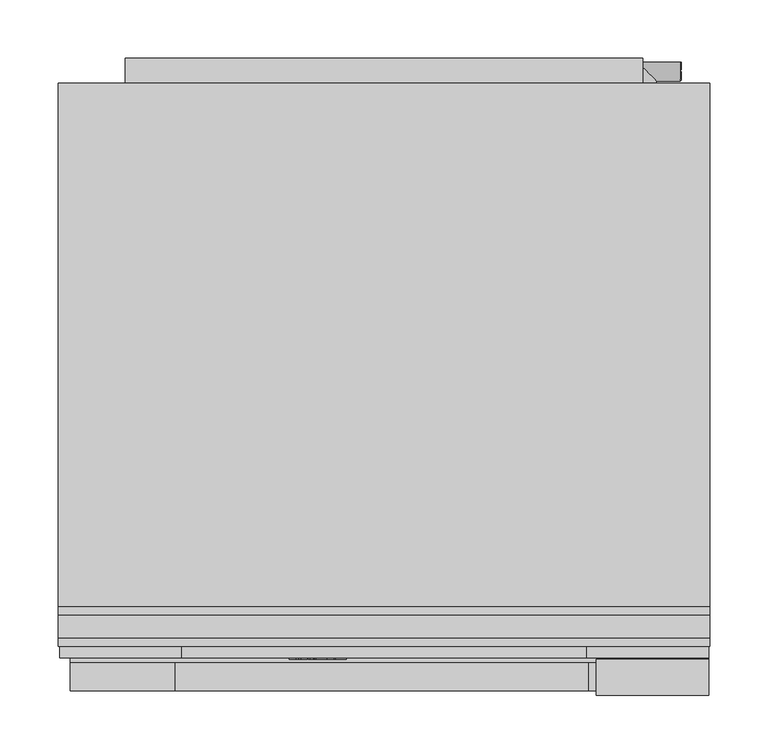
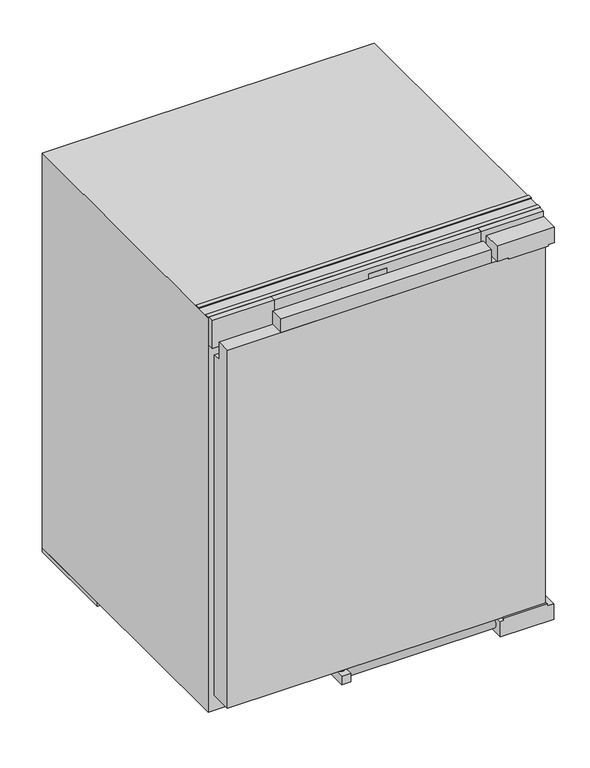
"""IFC4 building model written with IfcOpenShell, lengths in millimetres: proxy geometry, 12443420_EU1_FNS7040B : 37704006_EU1_12443420_FNS7040B."""

from ifc_helpers import new_model, si_unit, point, frame, frame_2d, origin, origin_with_axes, place, context, project, spatial, polyline, circle_curve, ellipse_curve, trimmed, segment, composite_curve, outline, extrude, faceted_brep, source, transform, mapped, element, save
from ifc_brep_helpers import plane_surface, cylinder_surface, revolved_surface, extruded_surface, advanced_brep


def specialty_equipment_b1f32cfa(model_context):
    return source(origin(), model_context, "Body", "SolidModel", [
        advanced_brep(
        [(-37.4941578, 34.0, 686.908), (-37.4941578, 34.0, 687.716), (-32.1421578, 34.0, 687.716), (-41.4541578, 34.0, 687.716), (-39.2541578, 34.0, 685.012), (-32.2781578, 34.0, 686.908), (-34.6941578, 34.0, 686.908), (-36.5981578, 34.0, 686.012), (-37.4941578, 34.0, 688.74), (-37.4941578, 34.0, 689.612), (-36.1261578, 34.0, 689.612), (-36.1261578, 34.0, 688.74), (-37.4941578, 35.0, 686.908), (-36.5981578, 35.0, 686.012), (-34.6941578, 35.0, 686.908), (-32.2781578, 35.0, 686.908), (-39.2541578, 35.0, 685.012), (-41.4541578, 35.0, 687.716), (-32.1421578, 35.0, 687.716), (-37.4941578, 35.0, 687.716), (-37.4941578, 35.0, 688.74), (-36.1261578, 35.0, 688.74), (-36.1261578, 35.0, 689.612), (-37.4941578, 35.0, 689.612)],
        [
            (0, 1),
            (1, 2),
            (2, 3, ellipse_curve(frame((-36.7981578, 34.0, 687.716), z_axis=(0.0, -1.0, 0.0), x_axis=(-1.0, 0.0, 0.0)), 4.656, 3.848)),
            (3, 4, circle_curve(frame((-38.3581141, 34.0, 687.988), z_axis=(0.0, -1.0, 0.0), x_axis=(0.0, 0.0, -1.0)), 3.1079688)),
            (4, 5, circle_curve(frame((-36.8913642, 34.0, 690.1), z_axis=(0.0, -1.0, 0.0), x_axis=(0.0, 0.0, -1.0)), 5.6098607)),
            (5, 6),
            (6, 7, circle_curve(frame((-36.207099, 34.0, 687.652), z_axis=(0.0, 1.0, 0.0), x_axis=(0.0, 0.0, -1.0)), 1.6859795)),
            (7, 0, circle_curve(frame((-36.5981578, 34.0, 686.908), z_axis=(0.0, 1.0, 0.0), x_axis=(0.0, 0.0, -1.0)), 0.896)),
            (8, 9),
            (9, 10, circle_curve(frame((-36.8101578, 34.0, 689.612), z_axis=(0.0, 1.0, 0.0), x_axis=(0.0, 0.0, -1.0)), 0.684)),
            (10, 11),
            (11, 8),
            (12, 13, circle_curve(frame((-36.5981578, 35.0, 686.908), z_axis=(0.0, -1.0, 0.0), x_axis=(0.0, 0.0, -1.0)), 0.896)),
            (13, 14, circle_curve(frame((-36.207099, 35.0, 687.652), z_axis=(0.0, -1.0, 0.0), x_axis=(0.0, 0.0, -1.0)), 1.6859795)),
            (14, 15),
            (15, 16, circle_curve(frame((-36.8913642, 35.0, 690.1), z_axis=(0.0, 1.0, 0.0), x_axis=(0.0, 0.0, -1.0)), 5.6098607)),
            (16, 17, circle_curve(frame((-38.3581141, 35.0, 687.988), z_axis=(0.0, 1.0, 0.0), x_axis=(0.0, 0.0, -1.0)), 3.1079688)),
            (17, 18, ellipse_curve(frame((-36.7981578, 35.0, 687.716), z_axis=(0.0, 1.0, 0.0), x_axis=(-1.0, 0.0, 0.0)), 4.656, 3.848)),
            (18, 19),
            (19, 12),
            (20, 21),
            (21, 22),
            (22, 23, circle_curve(frame((-36.8101578, 35.0, 689.612), z_axis=(0.0, -1.0, 0.0), x_axis=(0.0, 0.0, -1.0)), 0.684)),
            (23, 20),
            (0, 12),
            (19, 1),
            (18, 2),
            (5, 15),
            (14, 6),
            (17, 3),
            (13, 7),
            (16, 4),
            (8, 20),
            (23, 9),
            (22, 10),
            (21, 11),
        ],
        [
            plane_surface(frame((-37.4941578, 34.0, 687.716), z_axis=(0.0, -1.0, 0.0), x_axis=(0.0, 0.0, 1.0))),
            plane_surface(frame((-37.4941578, 35.0, 687.716), z_axis=(0.0, 1.0, 0.0), x_axis=(0.0, 0.0, -1.0))),
            plane_surface(frame((-37.4941578, 34.0, 686.908), z_axis=(1.0, 0.0, 0.0), x_axis=(0.0, 1.0, 0.0))),
            plane_surface(frame((-37.4941578, 34.0, 687.716), z_axis=(0.0, 0.0, -1.0), x_axis=(0.0, 1.0, 0.0))),
            plane_surface(frame((-32.2781578, 34.0, 686.908), z_axis=(0.0, 0.0, 1.0), x_axis=(0.0, 1.0, 0.0))),
            extruded_surface(trimmed(ellipse_curve(frame((-36.7981578, 36.0, 687.716), z_axis=(0.0, -1.0, 0.0), x_axis=(-1.0, 0.0, 0.0)), 4.656, 3.848), [point((-32.1421578, 36.0, 687.716))], [point((-41.4541578, 36.0, 687.716))], True, "CARTESIAN"), (0.0, -1.0, 0.0), 1.0),
            revolved_surface(polyline([(-36.207099, 35.0, 685.9660205), (-36.207099, 34.0, 685.9660205)]), (-36.207099, 35.0, 687.652), (0.0, 1.0, 0.0)),
            revolved_surface(polyline([(-36.5981578, 35.0, 686.0120000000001), (-36.5981578, 34.0, 686.0120000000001)]), (-36.5981578, 35.0, 686.908), (0.0, 1.0, 0.0)),
            cylinder_surface(frame((-38.3581141, 35.0, 687.988), z_axis=(0.0, -1.0, 0.0), x_axis=(0.0, 0.0, -1.0)), 3.1079688),
            cylinder_surface(frame((-36.8913642, 35.0, 690.1), z_axis=(0.0, -1.0, 0.0), x_axis=(0.0, 0.0, -1.0)), 5.6098607),
            plane_surface(frame((-37.4941578, 34.0, 688.74), z_axis=(1.0, 0.0, 0.0), x_axis=(0.0, 1.0, 0.0))),
            revolved_surface(polyline([(-36.8101578, 35.0, 688.928), (-36.8101578, 34.0, 688.928)]), (-36.8101578, 35.0, 689.612), (0.0, 1.0, 0.0)),
            plane_surface(frame((-36.1261578, 34.0, 689.612), z_axis=(-1.0, 0.0, 0.0), x_axis=(0.0, 1.0, 0.0))),
            plane_surface(frame((-36.1261578, 34.0, 688.74), z_axis=(0.0, 0.0, 1.0), x_axis=(0.0, 1.0, 0.0))),
        ],
        [
            (0, [[1, 2, 3, 4, 5, 6, 7, 8], [9, 10, 11, 12]]),
            (1, [[13, 14, 15, 16, 17, 18, 19, 20], [21, 22, 23, 24]]),
            (2, [[-1, 25, -20, 26]]),
            (3, [[-2, -26, -19, 27]]),
            (4, [[-6, 28, -15, 29]]),
            (5, [[-3, -27, -18, 30]]),
            (6, [[-7, -29, -14, 31]]),
            (7, [[-8, -31, -13, -25]]),
            (8, [[-4, -30, -17, 32]]),
            (9, [[-5, -32, -16, -28]]),
            (10, [[-9, 33, -24, 34]]),
            (11, [[-10, -34, -23, 35]]),
            (12, [[-11, -35, -22, 36]]),
            (13, [[-12, -36, -21, -33]]),
        ],
    ),
        advanced_brep(
        [(-54.1901578, 34.0, 686.908), (-54.1901578, 34.0, 687.716), (-48.8381578, 34.0, 687.716), (-58.1501578, 34.0, 687.716), (-55.9501578, 34.0, 685.012), (-48.9741578, 34.0, 686.908), (-51.3901578, 34.0, 686.908), (-53.2941578, 34.0, 686.012), (-54.1901578, 34.0, 688.74), (-54.1901578, 34.0, 689.612), (-52.8221578, 34.0, 689.612), (-52.8221578, 34.0, 688.74), (-54.1901578, 35.0, 686.908), (-53.2941578, 35.0, 686.012), (-51.3901578, 35.0, 686.908), (-48.9741578, 35.0, 686.908), (-55.9501578, 35.0, 685.012), (-58.1501578, 35.0, 687.716), (-48.8381578, 35.0, 687.716), (-54.1901578, 35.0, 687.716), (-54.1901578, 35.0, 688.74), (-52.8221578, 35.0, 688.74), (-52.8221578, 35.0, 689.612), (-54.1901578, 35.0, 689.612)],
        [
            (0, 1),
            (1, 2),
            (2, 3, ellipse_curve(frame((-53.4941578, 34.0, 687.716), z_axis=(0.0, -1.0, 0.0), x_axis=(-1.0, 0.0, 0.0)), 4.656, 3.848)),
            (3, 4, circle_curve(frame((-55.0541141, 34.0, 687.988), z_axis=(0.0, -1.0, 0.0), x_axis=(0.0, 0.0, -1.0)), 3.1079688)),
            (4, 5, circle_curve(frame((-53.5873642, 34.0, 690.1), z_axis=(0.0, -1.0, 0.0), x_axis=(0.0, 0.0, -1.0)), 5.6098607)),
            (5, 6),
            (6, 7, circle_curve(frame((-52.903099, 34.0, 687.652), z_axis=(0.0, 1.0, 0.0), x_axis=(0.0, 0.0, -1.0)), 1.6859795)),
            (7, 0, circle_curve(frame((-53.2941578, 34.0, 686.908), z_axis=(0.0, 1.0, 0.0), x_axis=(0.0, 0.0, -1.0)), 0.896)),
            (8, 9),
            (9, 10, circle_curve(frame((-53.5061578, 34.0, 689.612), z_axis=(0.0, 1.0, 0.0), x_axis=(0.0, 0.0, -1.0)), 0.684)),
            (10, 11),
            (11, 8),
            (12, 13, circle_curve(frame((-53.2941578, 35.0, 686.908), z_axis=(0.0, -1.0, 0.0), x_axis=(0.0, 0.0, -1.0)), 0.896)),
            (13, 14, circle_curve(frame((-52.903099, 35.0, 687.652), z_axis=(0.0, -1.0, 0.0), x_axis=(0.0, 0.0, -1.0)), 1.6859795)),
            (14, 15),
            (15, 16, circle_curve(frame((-53.5873642, 35.0, 690.1), z_axis=(0.0, 1.0, 0.0), x_axis=(0.0, 0.0, -1.0)), 5.6098607)),
            (16, 17, circle_curve(frame((-55.0541141, 35.0, 687.988), z_axis=(0.0, 1.0, 0.0), x_axis=(0.0, 0.0, -1.0)), 3.1079688)),
            (17, 18, ellipse_curve(frame((-53.4941578, 35.0, 687.716), z_axis=(0.0, 1.0, 0.0), x_axis=(-1.0, 0.0, 0.0)), 4.656, 3.848)),
            (18, 19),
            (19, 12),
            (20, 21),
            (21, 22),
            (22, 23, circle_curve(frame((-53.5061578, 35.0, 689.612), z_axis=(0.0, -1.0, 0.0), x_axis=(0.0, 0.0, -1.0)), 0.684)),
            (23, 20),
            (0, 12),
            (19, 1),
            (18, 2),
            (5, 15),
            (14, 6),
            (17, 3),
            (13, 7),
            (16, 4),
            (8, 20),
            (23, 9),
            (22, 10),
            (21, 11),
        ],
        [
            plane_surface(frame((-54.1901578, 34.0, 687.716), z_axis=(0.0, -1.0, 0.0), x_axis=(0.0, 0.0, 1.0))),
            plane_surface(frame((-54.1901578, 35.0, 687.716), z_axis=(0.0, 1.0, 0.0), x_axis=(0.0, 0.0, -1.0))),
            plane_surface(frame((-54.1901578, 34.0, 686.908), z_axis=(1.0, 0.0, 0.0), x_axis=(0.0, 1.0, 0.0))),
            plane_surface(frame((-54.1901578, 34.0, 687.716), z_axis=(0.0, 0.0, -1.0), x_axis=(0.0, 1.0, 0.0))),
            plane_surface(frame((-48.9741578, 34.0, 686.908), z_axis=(0.0, 0.0, 1.0), x_axis=(0.0, 1.0, 0.0))),
            extruded_surface(trimmed(ellipse_curve(frame((-53.4941578, 36.0, 687.716), z_axis=(0.0, -1.0, 0.0), x_axis=(-1.0, 0.0, 0.0)), 4.656, 3.848), [point((-48.8381578, 36.0, 687.716))], [point((-58.1501578, 36.0, 687.716))], True, "CARTESIAN"), (0.0, -1.0, 0.0), 1.0),
            revolved_surface(polyline([(-52.903099, 35.0, 685.9660205), (-52.903099, 34.0, 685.9660205)]), (-52.903099, 35.0, 687.652), (0.0, 1.0, 0.0)),
            revolved_surface(polyline([(-53.2941578, 35.0, 686.0120000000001), (-53.2941578, 34.0, 686.0120000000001)]), (-53.2941578, 35.0, 686.908), (0.0, 1.0, 0.0)),
            cylinder_surface(frame((-55.0541141, 35.0, 687.988), z_axis=(0.0, -1.0, 0.0), x_axis=(0.0, 0.0, -1.0)), 3.1079688),
            cylinder_surface(frame((-53.5873642, 35.0, 690.1), z_axis=(0.0, -1.0, 0.0), x_axis=(0.0, 0.0, -1.0)), 5.6098607),
            plane_surface(frame((-54.1901578, 34.0, 688.74), z_axis=(1.0, 0.0, 0.0), x_axis=(0.0, 1.0, 0.0))),
            revolved_surface(polyline([(-53.5061578, 35.0, 688.928), (-53.5061578, 34.0, 688.928)]), (-53.5061578, 35.0, 689.612), (0.0, 1.0, 0.0)),
            plane_surface(frame((-52.8221578, 34.0, 689.612), z_axis=(-1.0, 0.0, 0.0), x_axis=(0.0, 1.0, 0.0))),
            plane_surface(frame((-52.8221578, 34.0, 688.74), z_axis=(0.0, 0.0, 1.0), x_axis=(0.0, 1.0, 0.0))),
        ],
        [
            (0, [[1, 2, 3, 4, 5, 6, 7, 8], [9, 10, 11, 12]]),
            (1, [[13, 14, 15, 16, 17, 18, 19, 20], [21, 22, 23, 24]]),
            (2, [[-1, 25, -20, 26]]),
            (3, [[-2, -26, -19, 27]]),
            (4, [[-6, 28, -15, 29]]),
            (5, [[-3, -27, -18, 30]]),
            (6, [[-7, -29, -14, 31]]),
            (7, [[-8, -31, -13, -25]]),
            (8, [[-4, -30, -17, 32]]),
            (9, [[-5, -32, -16, -28]]),
            (10, [[-9, 33, -24, 34]]),
            (11, [[-10, -34, -23, 35]]),
            (12, [[-11, -35, -22, 36]]),
            (13, [[-12, -36, -21, -33]]),
        ],
    ),
        extrude(outline(polyline([(692.54, -62.9341578), (691.244, -62.3261578), (692.508, -59.6141578), (693.804, -60.2141578), (692.54, -62.9341578)])), frame((0.0, 34.0, 0.0), z_axis=(0.0, 1.0, 0.0), x_axis=(0.0, 0.0, 1.0)), (0.0, 0.0, 1.0), 1.0),
        extrude(outline(polyline([(691.068, -64.9101578), (689.636, -64.9101578), (689.636, -63.9581578), (686.356, -63.9581578), (686.356, -64.9101578), (685.012, -64.9101578), (685.012, -58.5981578), (686.356, -58.5981578), (686.356, -59.5261578), (691.068, -59.5261578), (691.068, -64.9101578)])), frame((0.0, 34.0, 0.0), z_axis=(0.0, 1.0, 0.0), x_axis=(0.0, 0.0, 1.0)), (0.0, 0.0, 1.0), 1.0),
        extrude(outline(polyline([(691.708, -48.3901578), (691.708, -47.4301578), (686.356, -47.4301578), (686.356, -48.3901578), (685.012, -48.3901578), (685.012, -41.9021578), (686.356, -41.9021578), (686.356, -42.8861578), (693.012, -42.8861578), (693.012, -48.3901578), (691.708, -48.3901578)])), frame((0.0, 34.0, 0.0), z_axis=(0.0, 1.0, 0.0), x_axis=(0.0, 0.0, 1.0)), (0.0, 0.0, 1.0), 1.0),
        extrude(outline(polyline([(691.708, -80.8541578), (691.708, -79.8861578), (686.356, -79.8861578), (686.356, -80.8541578), (685.012, -80.8541578), (685.012, -77.3341578), (686.356, -77.3341578), (686.356, -78.2941578), (689.7591247, -78.2941578), (685.012, -74.7181578), (689.8272223, -71.1261578), (686.356, -71.1261578), (686.356, -72.1101578), (685.012, -72.1101578), (685.012, -65.7261578), (686.356, -65.7261578), (686.356, -66.7421578), (691.708, -66.7421578), (691.708, -65.7261578), (693.012, -65.7261578), (693.012, -70.5981578), (690.012, -72.9341578), (693.012, -75.2781578), (693.012, -80.8541578), (691.708, -80.8541578)])), frame((0.0, 34.0, 0.0), z_axis=(0.0, 1.0, 0.0), x_axis=(0.0, 0.0, 1.0)), (0.0, 0.0, 1.0), 1.0),
        extrude(outline(polyline([(-14.8541578, 36.0), (15.1458422, 36.0), (15.1458422, 35.0), (-14.8541578, 35.0), (-14.8541578, 36.0)])), frame((0.0, 0.0, 672.0), z_axis=(0.0, 0.0, 1.0), x_axis=(1.0, 0.0, 0.0)), (0.0, 0.0, 1.0), 30.0),
        extrude(outline(polyline([(-277.3541578, 45.0), (-173.3541578, 45.0), (-173.3541578, 35.0), (-277.3541578, 35.0), (-277.3541578, 45.0)])), frame((0.0, 0.0, 662.0), z_axis=(0.0, 0.0, 1.0), x_axis=(1.0, 0.0, 0.0)), (0.0, 0.0, 1.0), 49.0),
        extrude(outline(polyline([(173.6458422, 45.0), (277.6458422, 45.0), (277.6458422, 35.0), (173.6458422, 35.0), (173.6458422, 45.0)])), frame((0.0, 0.0, 662.0), z_axis=(0.0, 0.0, 1.0), x_axis=(1.0, 0.0, 0.0)), (0.0, 0.0, 1.0), 49.0),
        faceted_brep([(173.6458422, 35.0, 711.0), (-173.3541578, 35.0, 711.0), (-173.3541578, 35.0, 662.0), (173.6458422, 35.0, 662.0), (15.1458422, 35.0, 702.0), (15.1458422, 35.0, 672.0), (-14.8541578, 35.0, 672.0), (-14.8541578, 35.0, 702.0), (173.6458422, 45.0, 711.0), (173.6458422, 45.0, 662.0), (-173.3541578, 45.0, 662.0), (-173.3541578, 45.0, 711.0), (15.1458422, 36.0, 702.0), (-14.8541578, 36.0, 702.0), (-14.8541578, 36.0, 672.0), (15.1458422, 36.0, 672.0)], [[[0, 1, 2, 3], [4, 5, 6, 7]], [[8, 9, 10, 11]], [[0, 3, 9, 8]], [[3, 2, 10, 9]], [[2, 1, 11, 10]], [[1, 0, 8, 11]], [[12, 13, 14, 15]], [[12, 15, 5, 4]], [[15, 14, 6, 5]], [[14, 13, 7, 6]], [[13, 12, 4, 7]]]),
        extrude(outline(polyline([(672.0, 201.6194317), (672.0, 267.6194317), (675.0, 267.6194317), (675.0, 277.6194317), (702.0, 277.6194317), (702.0, 181.6194317), (675.0, 181.6194317), (675.0, 201.6194317), (672.0, 201.6194317)])), frame((0.0, 3.0, 0.0), z_axis=(0.0, 1.0, 0.0), x_axis=(0.0, 0.0, 1.0)), (0.0, 0.0, 1.0), 31.0),
        extrude(outline(polyline([(33.0, 187.6194317), (6.0, 187.6194317), (6.0, 277.6194317), (33.0, 277.6194317), (33.0, 266.6194317), (37.0, 266.6194317), (37.0, 193.6194317), (33.0, 193.6194317), (33.0, 187.6194317)])), frame((0.0, 4.0, 0.0), z_axis=(0.0, 1.0, 0.0), x_axis=(0.0, 0.0, 1.0)), (0.0, 0.0, 1.0), 41.0),
        extrude(outline(polyline([(7.0, 37.0), (7.0, 672.0), (31.0, 672.0), (31.0, 641.0), (45.0, 641.0), (45.0, 37.0), (7.0, 37.0)])), frame((-268.3805683, 0.0, 0.0), z_axis=(1.0, 0.0, 0.0), x_axis=(0.0, 1.0, 0.0)), (0.0, 0.0, 1.0), 533.0),
        extrude(outline(polyline([(174.6194317, 7.0), (-178.3805683, 7.0), (-178.3805683, 31.0), (174.6194317, 31.0), (174.6194317, 7.0)])), frame((0.0, 0.0, 672.0), z_axis=(0.0, 0.0, 1.0), x_axis=(1.0, 0.0, 0.0)), (0.0, 0.0, 1.0), 24.0),
        extrude(outline(composite_curve([segment(trimmed(circle_curve(frame_2d((-67.3805683, 25.0)), 6.5), [point((-73.8805683, 25.0))], [point((-60.8805683, 25.0))], False, "CARTESIAN"), True, "CONTINUOUS"), segment(trimmed(circle_curve(frame_2d((-67.3805683, 25.0)), 6.5), [point((-60.8805683, 25.0))], [point((-73.8805683, 25.0))], False, "CARTESIAN"), True, "CONTINUOUS")], self_intersect=False)), frame((0.0, 0.0, 26.0), z_axis=(0.0, 0.0, 1.0), x_axis=(1.0, 0.0, 0.0)), (0.0, 0.0, 1.0), 11.0),
        extrude(outline(composite_curve([segment(trimmed(circle_curve(frame_2d((25.0, 20.0)), 9.0), [point((25.0, 11.0))], [point((25.0, 29.0))], False, "CARTESIAN"), True, "CONTINUOUS"), segment(trimmed(circle_curve(frame_2d((25.0, 20.0)), 9.0), [point((25.0, 29.0))], [point((25.0, 11.0))], False, "CARTESIAN"), True, "CONTINUOUS")], self_intersect=False)), frame((-60.8805683, 0.0, 0.0), z_axis=(1.0, 0.0, 0.0), x_axis=(0.0, 1.0, 0.0)), (0.0, 0.0, 1.0), 248.5),
        extrude(outline(polyline([(-75.8805683, 8.0), (-75.8805683, 42.0), (-60.8805683, 42.0), (-60.8805683, 8.0), (-75.8805683, 8.0)])), frame((0.0, 0.0, 11.0), z_axis=(0.0, 0.0, 1.0), x_axis=(1.0, 0.0, 0.0)), (0.0, 0.0, 1.0), 15.0),
        faceted_brep([(278.5, 527.0, 710.2), (-278.5, 527.0, 710.2), (-278.5, 45.0, 710.2), (278.5, 45.0, 710.2), (278.5, 527.0, 10.2), (278.5, 45.0, 10.2), (-278.5, 45.0, 10.2), (-278.5, 527.0, 10.2), (-208.5, 45.0, 632.2), (208.5, 45.0, 632.2), (208.5, 45.0, 76.2), (-208.5, 45.0, 76.2), (208.5, 487.0, 632.2), (-208.5, 487.0, 632.2), (-208.5, 487.0, 76.2), (208.5, 487.0, 76.2)], [[[0, 1, 2, 3]], [[4, 5, 6, 7]], [[1, 0, 4, 7]], [[2, 1, 7, 6]], [[3, 2, 6, 5], [8, 9, 10, 11]], [[0, 3, 5, 4]], [[12, 13, 14, 15]], [[13, 12, 9, 8]], [[14, 13, 8, 11]], [[15, 14, 11, 10]], [[12, 15, 10, 9]]]),
        extrude(outline(polyline([(208.5, 487.0), (208.5, 415.0), (-208.5, 415.0), (-208.5, 487.0), (208.5, 487.0)])), frame((0.0, 0.0, 76.2), z_axis=(0.0, 0.0, 1.0), x_axis=(1.0, 0.0, 0.0)), (0.0, 0.0, 1.0), 217.0),
        extrude(outline(polyline([(278.5, 367.0), (-278.5, 367.0), (-278.5, 527.0), (278.5, 527.0), (278.5, 367.0)])), frame((0.0, 0.0, 3.2), z_axis=(0.0, 0.0, 1.0), x_axis=(1.0, 0.0, 0.0)), (0.0, 0.0, 1.0), 7.0),
        extrude(outline(polyline([(-175.9047649, 94.122951), (-194.8377867, 364.8777771), (-169.8986855, 366.6216889), (-150.9656637, 95.8668628), (-175.9047649, 94.122951)])), frame((0.0, 0.0, 3.2), z_axis=(0.0, 0.0, 1.0), x_axis=(1.0, 0.0, 0.0)), (0.0, 0.0, 1.0), 7.0),
        extrude(outline(polyline([(175.9047649, 94.122951), (150.9656637, 95.8668628), (169.8791008, 366.3416154), (194.8182021, 364.5977035), (175.9047649, 94.122951)])), frame((0.0, 0.0, 3.2), z_axis=(0.0, 0.0, 1.0), x_axis=(1.0, 0.0, 0.0)), (0.0, 0.0, 1.0), 7.0),
        extrude(outline(composite_curve([segment(trimmed(circle_curve(frame_2d((-226.5, 64.6852762)), 11.0852762), [point((-237.5852762, 64.6852762))], [point((-215.4147238, 64.6852762))], False, "CARTESIAN"), True, "CONTINUOUS"), segment(trimmed(circle_curve(frame_2d((-226.5, 64.6852762)), 11.0852762), [point((-215.4147238, 64.6852762))], [point((-237.5852762, 64.6852762))], False, "CARTESIAN"), True, "CONTINUOUS")], self_intersect=False)), origin_with_axes(), (0.0, 0.0, 1.0), 10.2),
        extrude(outline(composite_curve([segment(trimmed(circle_curve(frame_2d((226.5, 64.6852762)), 11.0852762), [point((215.4147238, 64.6852762))], [point((237.5852762, 64.6852762))], False, "CARTESIAN"), True, "CONTINUOUS"), segment(trimmed(circle_curve(frame_2d((226.5, 64.6852762)), 11.0852762), [point((237.5852762, 64.6852762))], [point((215.4147238, 64.6852762))], False, "CARTESIAN"), True, "CONTINUOUS")], self_intersect=False)), origin_with_axes(), (0.0, 0.0, 1.0), 10.2),
        advanced_brep(
        [(232.9638051, 527.0, 142.0394627), (217.0361949, 527.0, 142.0394627), (232.9638051, 529.0361949, 142.0394627), (217.0361949, 544.9638051, 142.0394627), (253.2418947, 529.0361949, 142.0394627), (253.2418947, 544.9638051, 142.0394627)],
        [
            (0, 1, circle_curve(frame((225.0, 527.0, 142.0394627), z_axis=(0.0, -1.0, 0.0), x_axis=(-1.0, 0.0, 0.0)), 7.9638051)),
            (1, 0, circle_curve(frame((225.0, 527.0, 142.0394627), z_axis=(0.0, -1.0, 0.0), x_axis=(-1.0, 0.0, 0.0)), 7.9638051)),
            (0, 2),
            (2, 3, ellipse_curve(frame((225.0, 537.0, 142.0394627), z_axis=(-0.70710678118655, -0.707106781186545, 0.0), x_axis=(0.707106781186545, -0.7071067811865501, 0.0)), 11.2625212, 7.9638051)),
            (3, 1),
            (3, 2, ellipse_curve(frame((225.0, 537.0, 142.0394627), z_axis=(-0.70710678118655, -0.707106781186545, 0.0), x_axis=(0.707106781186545, -0.7071067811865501, 0.0)), 11.2625212, 7.9638051)),
            (4, 5, circle_curve(frame((253.2418947, 537.0, 142.0394627), z_axis=(1.0, 0.0, 0.0), x_axis=(0.0, 1.0, 0.0)), 7.9638051)),
            (5, 4, circle_curve(frame((253.2418947, 537.0, 142.0394627), z_axis=(1.0, 0.0, 0.0), x_axis=(0.0, 1.0, 0.0)), 7.9638051)),
            (2, 4),
            (5, 3),
        ],
        [
            plane_surface(frame((225.0, 527.0, 3.2), z_axis=(0.0, -1.0, 0.0), x_axis=(0.0, 0.0, 1.0))),
            cylinder_surface(frame((225.0, 527.0, 142.0394627), z_axis=(0.0, -1.0, 0.0), x_axis=(-1.0, 0.0, 0.0)), 7.9638051),
            plane_surface(frame((253.2418947, 537.0, 3.2), z_axis=(1.0, 0.0, 0.0), x_axis=(0.0, 0.0, 1.0))),
            cylinder_surface(frame((225.0, 537.0, 142.0394627), z_axis=(-1.0, 0.0, 0.0), x_axis=(0.0, 1.0, 0.0)), 7.9638051),
        ],
        [
            (0, [[1, 2]]),
            (1, [[-1, 3, 4, 5]]),
            (1, [[-2, -5, 6, -3]]),
            (2, [[7, 8]]),
            (3, [[-4, 9, -8, 10]]),
            (3, [[-6, -10, -7, -9]]),
        ],
    ),
        extrude(outline(polyline([(529.6227397, 137.0394627), (529.6227397, 147.0850937), (536.843037, 147.0850937), (536.843037, 145.8293899), (530.8784436, 145.8293899), (530.8784436, 142.8470932), (536.529111, 142.8470932), (536.529111, 141.5913893), (530.8784436, 141.5913893), (530.8784436, 138.2951666), (537.0, 138.2951666), (537.0, 137.0394627), (529.6227397, 137.0394627)])), frame((253.2418947, 0.0, 0.0), z_axis=(1.0, 0.0, 0.0), x_axis=(0.0, 1.0, 0.0)), (0.0, 0.0, 1.0), 1.0),
        extrude(outline(polyline([(538.8835558, 137.0394627), (538.8835558, 147.0850937), (540.1392597, 147.0850937), (540.1392597, 138.2951666), (545.1620752, 138.2951666), (545.1620752, 137.0394627), (538.8835558, 137.0394627)])), frame((253.2418947, 0.0, 0.0), z_axis=(1.0, 0.0, 0.0), x_axis=(0.0, 1.0, 0.0)), (0.0, 0.0, 1.0), 1.0),
        extrude(outline(polyline([(278.5, 79.0), (278.5, 72.0), (-278.5, 72.0), (-278.5, 79.0), (278.5, 79.0)])), frame((0.0, 0.0, 710.2), z_axis=(0.0, 0.0, 1.0), x_axis=(1.0, 0.0, 0.0)), (0.0, 0.0, 1.0), 2.0),
        extrude(outline(polyline([(278.5, 52.0), (278.5, 45.0), (-278.5, 45.0), (-278.5, 52.0), (278.5, 52.0)])), frame((0.0, 0.0, 710.2), z_axis=(0.0, 0.0, 1.0), x_axis=(1.0, 0.0, 0.0)), (0.0, 0.0, 1.0), 2.0),
        extrude(outline(polyline([(654.2, 221.5), (654.2, -221.5), (24.2, -221.5), (24.2, 221.5), (132.2534782, 221.5), (132.2534782, 212.5555072), (152.8704825, 212.5555072), (152.8704825, 221.5), (654.2, 221.5)])), frame((0.0, 527.0, 0.0), z_axis=(0.0, 1.0, 0.0), x_axis=(0.0, 0.0, 1.0)), (0.0, 0.0, 1.0), 21.28),
    ])


if __name__ == "__main__":
    model = new_model("IFC4")
    model_context = context("Model", 3, world=origin())
    ifc_project = project(units=[si_unit("LENGTHUNIT", "METRE", prefix="MILLI")], contexts=[model_context])
    site = spatial("IfcSite", under=ifc_project)
    building = spatial("IfcBuilding", under=site)
    placement = place(None, origin())
    specialty_equipment_shape = specialty_equipment_b1f32cfa(model_context)
    element("IfcBuildingElementProxy", 1, Name="12443420_EU1_FNS7040B : 37704006_EU1_12443420_FNS7040B", ObjectType="12443420_EU1_FNS7040B : 37704006_EU1_12443420_FNS7040B", at=placement, inside=building, context=model_context, shape_type="MappedRepresentation", body=[
        mapped(specialty_equipment_shape, transform((0.0, 0.0, 0.0), x_axis=(1.0, 0.0, 0.0), y_axis=(0.0, 1.0, 0.0), z_axis=(0.0, 0.0, 1.0))),
    ])
    save(model, "model.ifc")
